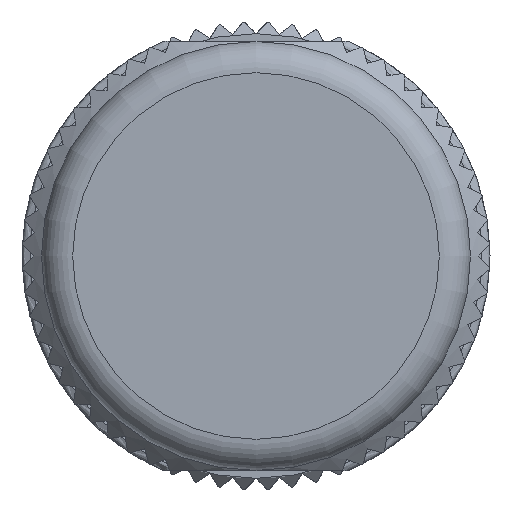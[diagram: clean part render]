
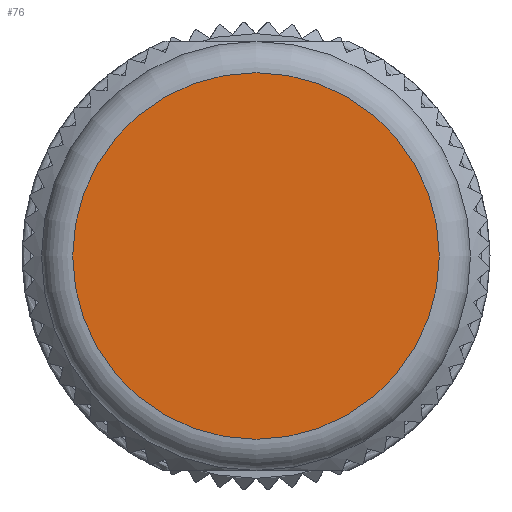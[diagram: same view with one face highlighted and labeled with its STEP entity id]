
A CAD part, left-side view. The second image highlights one B-rep face of the part: STEP entity #76.
In plain terms, the highlighted planar face has unit normal (-1, 0, 0).
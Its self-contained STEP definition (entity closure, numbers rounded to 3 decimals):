
#76 = ADVANCED_FACE( '', ( #578 ), #579, .F. );
#578 = FACE_OUTER_BOUND( '', #1602, .T. );
#579 = PLANE( '', #1603 );
#1602 = EDGE_LOOP( '', ( #2631 ) );
#1603 = AXIS2_PLACEMENT_3D( '', #2632, #2633, #2634 );
#2631 = ORIENTED_EDGE( '', *, *, #6992, .F. );
#2632 = CARTESIAN_POINT( '', ( 0., 0., 0. ) );
#2633 = DIRECTION( '', ( 1., 0., 0. ) );
#2634 = DIRECTION( '', ( 0., 0., -1. ) );
#6992 = EDGE_CURVE( '', #8428, #8428, #8429, .T. );
#8428 = VERTEX_POINT( '', #10820 );
#8429 = CIRCLE( '', #10821, 4.7 );
#10820 = CARTESIAN_POINT( '', ( 0., 0., -4.7 ) );
#10821 = AXIS2_PLACEMENT_3D( '', #15906, #15907, #15908 );
#15906 = CARTESIAN_POINT( '', ( 0., 0., 0. ) );
#15907 = DIRECTION( '', ( 1., 0., 0. ) );
#15908 = DIRECTION( '', ( 0., 0., -1. ) );
